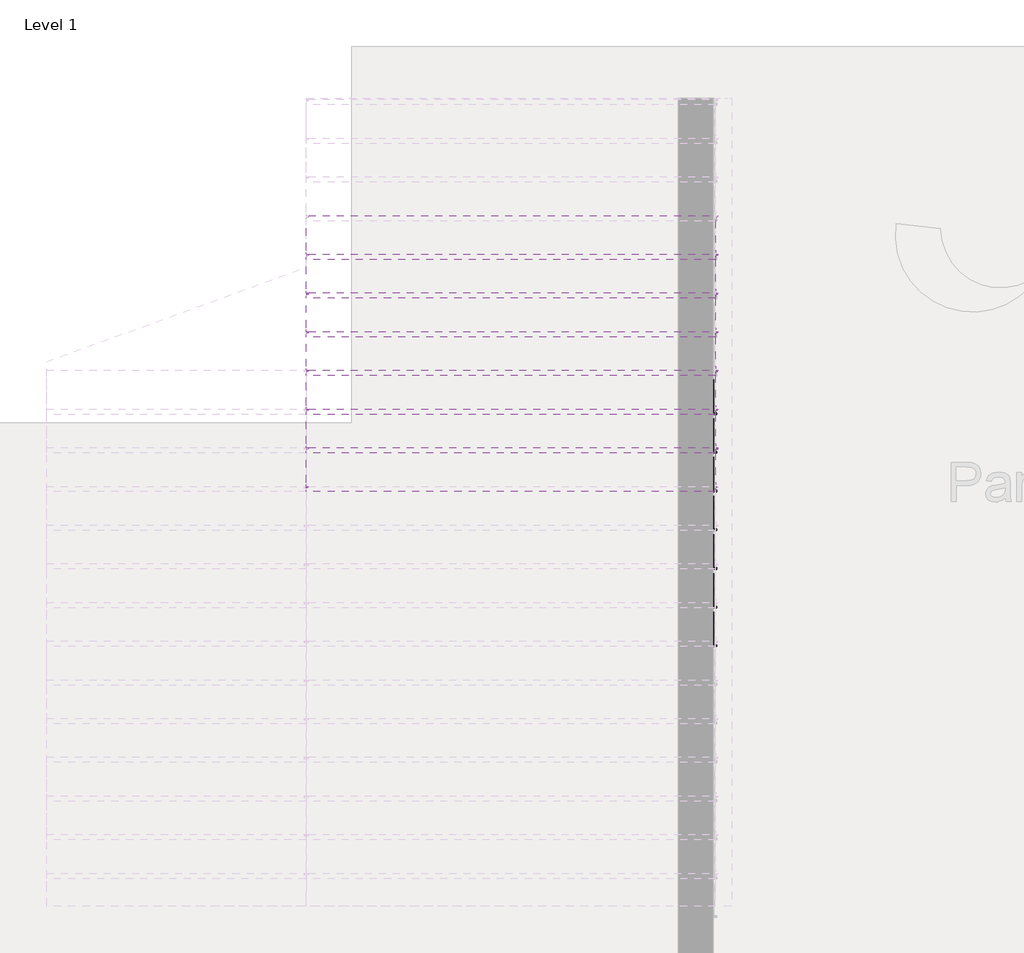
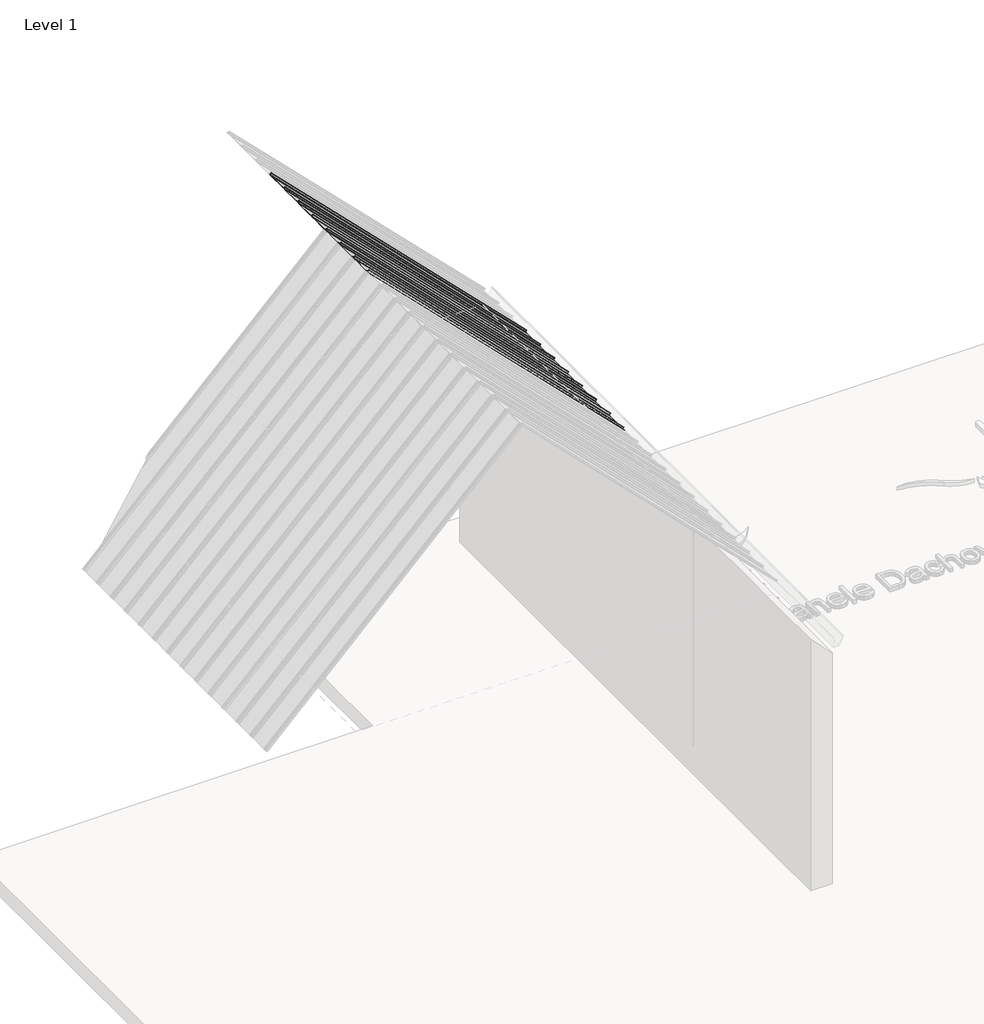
# One storey, part 8 of 24: 14 proxies.
"""IFC4 building model written with IfcOpenShell, lengths in millimetres."""

from ifc_helpers import new_model, si_unit, point, frame, frame_2d, origin, place, context, project, spatial, polyline, circle_curve, trimmed, segment, composite_curve, outline, extrude, transform, mapped, element, save
from components import aqua_slim_1cb284e8

model = new_model("IFC4")

# Units and contexts
model_context = context("Model", 3, world=origin())
ifc_project = project(units=[si_unit("LENGTHUNIT", "METRE", prefix="MILLI")], contexts=[model_context])

# Site, building, storey
site = spatial("IfcSite", under=ifc_project)
building = spatial("IfcBuilding", under=site)
storey = spatial("IfcBuildingStorey", under=building, Name="Level 1", Elevation=0.0)

# Proxies
placement = place(None, origin())
element("IfcBuildingElementProxy", 1, Name="AQUAPLAST - Panel Dachowy i Elewacyjny Aqua Slim : Aqua Slim", ObjectType="AQUAPLAST - Panel Dachowy i Elewacyjny Aqua Slim : Aqua Slim", at=placement, inside=storey, context=model_context, shape_type="SweptSolid", body=[
    extrude(outline(polyline([(0.0, 227.2000503), (4454.0, 227.2000503), (4454.0, 0.0), (0.0, 0.0), (0.0, 227.2000503)])), frame((-5286.5167864, 13207.4302375, 6945.4435021), z_axis=(0.7071067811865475, 0.0, 0.7071067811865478), x_axis=(0.7071067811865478, 0.0, -0.7071067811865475)), (0.0, 0.0, 1.0), 0.8),
    extrude(outline(composite_curve([segment(polyline([(1.6, -36.6), (0.8, -40.1), (0.0, -40.1), (0.8000601, -36.6), (0.8000601, -12.7000752)]), True, "CONTINUOUS"), segment(trimmed(circle_curve(frame_2d((1.2999699, -12.7000752)), 0.4999098), [point((0.8000601, -12.7000752))], [point((1.2999699, -12.2001654))], False, "CARTESIAN"), True, "CONTINUOUS"), segment(polyline([(1.2999699, -12.2001654), (23.7003195, -12.2001654)]), True, "CONTINUOUS"), segment(trimmed(circle_curve(frame_2d((23.7003195, -11.6998422)), 0.5003233), [point((23.7003195, -12.2001654))], [point((24.2006428, -11.6998422))], True, "CARTESIAN"), True, "CONTINUOUS"), segment(polyline([(24.2006428, -11.6998422), (24.2006428, -1.2033228)]), True, "CONTINUOUS"), segment(trimmed(circle_curve(frame_2d((23.6993591, -1.2033228)), 0.5012837), [point((24.2006428, -1.2033228))], [point((23.6993591, -0.7020391))], True, "CARTESIAN"), True, "CONTINUOUS"), segment(polyline([(23.6993591, -0.7020391), (9.7850119, -0.7020391)]), True, "CONTINUOUS"), segment(trimmed(circle_curve(frame_2d((9.7850119, -1.6460516)), 0.9440125), [point((9.7850119, -0.7020391))], [point((8.9478642, -1.2097679))], True, "CARTESIAN"), True, "CONTINUOUS"), segment(trimmed(circle_curve(frame_2d((5.4137845, -0.6808077)), 3.5734462), [point((8.9478642, -1.2097679))], [point((1.8403383, -0.6808077))], False, "CARTESIAN"), True, "CONTINUOUS"), segment(polyline([(1.8403383, -0.6808077), (2.6405793, -0.6808077)]), True, "CONTINUOUS"), segment(trimmed(circle_curve(frame_2d((5.3847864, -0.6808077)), 2.7442071), [point((2.6405793, -0.6808077))], [point((8.1289934, -0.6808077))], True, "CARTESIAN"), True, "CONTINUOUS"), segment(trimmed(circle_curve(frame_2d((8.8039224, -0.6749544)), 0.6749543), [point((8.1289934, -0.6808077))], [point((8.8039224, 0.0))], False, "CARTESIAN"), True, "CONTINUOUS"), segment(polyline([(8.8039224, 0.0), (24.5, 0.0)]), True, "CONTINUOUS"), segment(trimmed(circle_curve(frame_2d((24.5, -0.5)), 0.5), [point((24.5, 0.0))], [point((25.0, -0.5))], False, "CARTESIAN"), True, "CONTINUOUS"), segment(polyline([(25.0, -0.5), (25.0, -12.5)]), True, "CONTINUOUS"), segment(trimmed(circle_curve(frame_2d((24.5, -12.5)), 0.5), [point((25.0, -12.5))], [point((24.5, -13.0))], False, "CARTESIAN"), True, "CONTINUOUS"), segment(polyline([(24.5, -13.0), (2.1, -13.0)]), True, "CONTINUOUS"), segment(trimmed(circle_curve(frame_2d((2.1, -13.5)), 0.5), [point((2.1, -13.0))], [point((1.6, -13.5))], True, "CARTESIAN"), True, "CONTINUOUS"), segment(polyline([(1.6, -13.5), (1.6, -36.6)]), True, "CONTINUOUS")], self_intersect=False)), frame((-2137.063183, 13474.7302878, 3795.9898987), z_axis=(-0.7071067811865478, 0.0, 0.7071067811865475), x_axis=(0.7071067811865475, 0.0, 0.7071067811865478)), (0.0, 0.0, 1.0), 4454.0),
    extrude(outline(composite_curve([segment(polyline([(0.8, 0.0), (0.0, 0.0), (0.0, 30.3277327)]), True, "CONTINUOUS"), segment(trimmed(circle_curve(frame_2d((0.7400208, 30.3277327)), 0.7400208), [point((0.0, 30.3277327))], [point((0.6241817, 31.0586308))], False, "CARTESIAN"), True, "CONTINUOUS"), segment(polyline([(0.6241817, 31.0586308), (18.4803327, 33.8886302)]), True, "CONTINUOUS"), segment(trimmed(circle_curve(frame_2d((18.1818617, 35.771861)), 1.9067363), [point((18.4803327, 33.8886302))], [point((19.1352298, 37.4231431))], True, "CARTESIAN"), True, "CONTINUOUS"), segment(polyline([(19.1352298, 37.4231431), (11.8934079, 40.3349068)]), True, "CONTINUOUS"), segment(trimmed(circle_curve(frame_2d((11.2676679, 38.7786343)), 1.6773594), [point((11.8934079, 40.3349068))], [point((9.7513874, 39.4958707))], True, "CARTESIAN"), True, "CONTINUOUS"), segment(trimmed(circle_curve(frame_2d((5.5014361, 41.5061979)), 4.7014361), [point((9.7513874, 39.4958707))], [point((0.8, 41.5061979))], False, "CARTESIAN"), True, "CONTINUOUS"), segment(polyline([(0.8, 41.5061979), (0.8, 69.1999497), (0.0, 72.6999497), (0.8, 72.6999497), (1.6, 69.1999497), (1.6, 41.3470224)]), True, "CONTINUOUS"), segment(trimmed(circle_curve(frame_2d((5.4667311, 41.3470224)), 3.8667311), [point((1.6, 41.3470224))], [point((9.0024093, 39.7815866))], True, "CARTESIAN"), True, "CONTINUOUS"), segment(trimmed(circle_curve(frame_2d((11.2676679, 38.7786343)), 2.4773594), [point((9.0024093, 39.7815866))], [point((12.1941629, 41.0762236))], False, "CARTESIAN"), True, "CONTINUOUS"), segment(polyline([(12.1941629, 41.0762236), (19.5352299, 38.1159634)]), True, "CONTINUOUS"), segment(trimmed(circle_curve(frame_2d((18.1818617, 35.771861)), 2.7067363), [point((19.5352299, 38.1159634))], [point((18.7653554, 33.1287651))], False, "CARTESIAN"), True, "CONTINUOUS"), segment(polyline([(18.7653554, 33.1287651), (1.3501315, 30.0958084)]), True, "CONTINUOUS"), segment(trimmed(circle_curve(frame_2d((1.4640676, 29.441588)), 0.6640676), [point((1.3501315, 30.0958084))], [point((0.8, 29.441588))], True, "CARTESIAN"), True, "CONTINUOUS"), segment(polyline([(0.8, 29.441588), (0.8, 0.0)]), True, "CONTINUOUS")], self_intersect=False)), frame((-2137.063183, 13134.7302878, 3795.9898987), z_axis=(-0.7071067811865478, 0.0, 0.7071067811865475), x_axis=(0.7071067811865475, 0.0, 0.7071067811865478)), (0.0, 0.0, 1.0), 4454.0),
])
element("IfcBuildingElementProxy", 2, Name="AQUAPLAST - Panel Dachowy i Elewacyjny Aqua Slim : Aqua Slim", ObjectType="AQUAPLAST - Panel Dachowy i Elewacyjny Aqua Slim : Aqua Slim", at=placement, inside=storey, context=model_context, shape_type="SweptSolid", body=[
    extrude(outline(polyline([(0.0, 227.2000503), (4454.0, 227.2000503), (4454.0, 0.0), (0.0, 0.0), (0.0, 227.2000503)])), frame((-5286.5167864, 13505.4302375, 6945.4435021), z_axis=(0.7071067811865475, 0.0, 0.7071067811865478), x_axis=(0.7071067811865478, 0.0, -0.7071067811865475)), (0.0, 0.0, 1.0), 0.8),
    extrude(outline(composite_curve([segment(polyline([(1.6, -36.6), (0.8, -40.1), (0.0, -40.1), (0.8000601, -36.6), (0.8000601, -12.7000752)]), True, "CONTINUOUS"), segment(trimmed(circle_curve(frame_2d((1.2999699, -12.7000752)), 0.4999098), [point((0.8000601, -12.7000752))], [point((1.2999699, -12.2001654))], False, "CARTESIAN"), True, "CONTINUOUS"), segment(polyline([(1.2999699, -12.2001654), (23.7003195, -12.2001654)]), True, "CONTINUOUS"), segment(trimmed(circle_curve(frame_2d((23.7003195, -11.6998422)), 0.5003233), [point((23.7003195, -12.2001654))], [point((24.2006428, -11.6998422))], True, "CARTESIAN"), True, "CONTINUOUS"), segment(polyline([(24.2006428, -11.6998422), (24.2006428, -1.2033228)]), True, "CONTINUOUS"), segment(trimmed(circle_curve(frame_2d((23.6993591, -1.2033228)), 0.5012837), [point((24.2006428, -1.2033228))], [point((23.6993591, -0.7020391))], True, "CARTESIAN"), True, "CONTINUOUS"), segment(polyline([(23.6993591, -0.7020391), (9.7850119, -0.7020391)]), True, "CONTINUOUS"), segment(trimmed(circle_curve(frame_2d((9.7850119, -1.6460516)), 0.9440125), [point((9.7850119, -0.7020391))], [point((8.9478642, -1.2097679))], True, "CARTESIAN"), True, "CONTINUOUS"), segment(trimmed(circle_curve(frame_2d((5.4137845, -0.6808077)), 3.5734462), [point((8.9478642, -1.2097679))], [point((1.8403383, -0.6808077))], False, "CARTESIAN"), True, "CONTINUOUS"), segment(polyline([(1.8403383, -0.6808077), (2.6405793, -0.6808077)]), True, "CONTINUOUS"), segment(trimmed(circle_curve(frame_2d((5.3847864, -0.6808077)), 2.7442071), [point((2.6405793, -0.6808077))], [point((8.1289934, -0.6808077))], True, "CARTESIAN"), True, "CONTINUOUS"), segment(trimmed(circle_curve(frame_2d((8.8039224, -0.6749544)), 0.6749543), [point((8.1289934, -0.6808077))], [point((8.8039224, 0.0))], False, "CARTESIAN"), True, "CONTINUOUS"), segment(polyline([(8.8039224, 0.0), (24.5, 0.0)]), True, "CONTINUOUS"), segment(trimmed(circle_curve(frame_2d((24.5, -0.5)), 0.5), [point((24.5, 0.0))], [point((25.0, -0.5))], False, "CARTESIAN"), True, "CONTINUOUS"), segment(polyline([(25.0, -0.5), (25.0, -12.5)]), True, "CONTINUOUS"), segment(trimmed(circle_curve(frame_2d((24.5, -12.5)), 0.5), [point((25.0, -12.5))], [point((24.5, -13.0))], False, "CARTESIAN"), True, "CONTINUOUS"), segment(polyline([(24.5, -13.0), (2.1, -13.0)]), True, "CONTINUOUS"), segment(trimmed(circle_curve(frame_2d((2.1, -13.5)), 0.5), [point((2.1, -13.0))], [point((1.6, -13.5))], True, "CARTESIAN"), True, "CONTINUOUS"), segment(polyline([(1.6, -13.5), (1.6, -36.6)]), True, "CONTINUOUS")], self_intersect=False)), frame((-2137.063183, 13772.7302878, 3795.9898987), z_axis=(-0.7071067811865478, 0.0, 0.7071067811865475), x_axis=(0.7071067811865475, 0.0, 0.7071067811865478)), (0.0, 0.0, 1.0), 4454.0),
    extrude(outline(composite_curve([segment(polyline([(0.8, 0.0), (0.0, 0.0), (0.0, 30.3277327)]), True, "CONTINUOUS"), segment(trimmed(circle_curve(frame_2d((0.7400208, 30.3277327)), 0.7400208), [point((0.0, 30.3277327))], [point((0.6241817, 31.0586308))], False, "CARTESIAN"), True, "CONTINUOUS"), segment(polyline([(0.6241817, 31.0586308), (18.4803327, 33.8886302)]), True, "CONTINUOUS"), segment(trimmed(circle_curve(frame_2d((18.1818617, 35.771861)), 1.9067363), [point((18.4803327, 33.8886302))], [point((19.1352298, 37.4231431))], True, "CARTESIAN"), True, "CONTINUOUS"), segment(polyline([(19.1352298, 37.4231431), (11.8934079, 40.3349068)]), True, "CONTINUOUS"), segment(trimmed(circle_curve(frame_2d((11.2676679, 38.7786343)), 1.6773594), [point((11.8934079, 40.3349068))], [point((9.7513874, 39.4958707))], True, "CARTESIAN"), True, "CONTINUOUS"), segment(trimmed(circle_curve(frame_2d((5.5014361, 41.5061979)), 4.7014361), [point((9.7513874, 39.4958707))], [point((0.8, 41.5061979))], False, "CARTESIAN"), True, "CONTINUOUS"), segment(polyline([(0.8, 41.5061979), (0.8, 69.1999497), (0.0, 72.6999497), (0.8, 72.6999497), (1.6, 69.1999497), (1.6, 41.3470224)]), True, "CONTINUOUS"), segment(trimmed(circle_curve(frame_2d((5.4667311, 41.3470224)), 3.8667311), [point((1.6, 41.3470224))], [point((9.0024093, 39.7815866))], True, "CARTESIAN"), True, "CONTINUOUS"), segment(trimmed(circle_curve(frame_2d((11.2676679, 38.7786343)), 2.4773594), [point((9.0024093, 39.7815866))], [point((12.1941629, 41.0762236))], False, "CARTESIAN"), True, "CONTINUOUS"), segment(polyline([(12.1941629, 41.0762236), (19.5352299, 38.1159634)]), True, "CONTINUOUS"), segment(trimmed(circle_curve(frame_2d((18.1818617, 35.771861)), 2.7067363), [point((19.5352299, 38.1159634))], [point((18.7653554, 33.1287651))], False, "CARTESIAN"), True, "CONTINUOUS"), segment(polyline([(18.7653554, 33.1287651), (1.3501315, 30.0958084)]), True, "CONTINUOUS"), segment(trimmed(circle_curve(frame_2d((1.4640676, 29.441588)), 0.6640676), [point((1.3501315, 30.0958084))], [point((0.8, 29.441588))], True, "CARTESIAN"), True, "CONTINUOUS"), segment(polyline([(0.8, 29.441588), (0.8, 0.0)]), True, "CONTINUOUS")], self_intersect=False)), frame((-2137.063183, 13432.7302878, 3795.9898987), z_axis=(-0.7071067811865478, 0.0, 0.7071067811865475), x_axis=(0.7071067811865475, 0.0, 0.7071067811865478)), (0.0, 0.0, 1.0), 4454.0),
])
element("IfcBuildingElementProxy", 3, Name="AQUAPLAST - Panel Dachowy i Elewacyjny Aqua Slim : Aqua Slim", ObjectType="AQUAPLAST - Panel Dachowy i Elewacyjny Aqua Slim : Aqua Slim", at=placement, inside=storey, context=model_context, shape_type="SweptSolid", body=[
    extrude(outline(polyline([(0.0, 227.2000503), (4454.0, 227.2000503), (4454.0, 0.0), (0.0, 0.0), (0.0, 227.2000503)])), frame((-5286.5167864, 13803.4302375, 6945.4435021), z_axis=(0.7071067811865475, 0.0, 0.7071067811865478), x_axis=(0.7071067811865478, 0.0, -0.7071067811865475)), (0.0, 0.0, 1.0), 0.8),
    extrude(outline(composite_curve([segment(polyline([(1.6, -36.6), (0.8, -40.1), (0.0, -40.1), (0.8000601, -36.6), (0.8000601, -12.7000752)]), True, "CONTINUOUS"), segment(trimmed(circle_curve(frame_2d((1.2999699, -12.7000752)), 0.4999098), [point((0.8000601, -12.7000752))], [point((1.2999699, -12.2001654))], False, "CARTESIAN"), True, "CONTINUOUS"), segment(polyline([(1.2999699, -12.2001654), (23.7003195, -12.2001654)]), True, "CONTINUOUS"), segment(trimmed(circle_curve(frame_2d((23.7003195, -11.6998422)), 0.5003233), [point((23.7003195, -12.2001654))], [point((24.2006428, -11.6998422))], True, "CARTESIAN"), True, "CONTINUOUS"), segment(polyline([(24.2006428, -11.6998422), (24.2006428, -1.2033228)]), True, "CONTINUOUS"), segment(trimmed(circle_curve(frame_2d((23.6993591, -1.2033228)), 0.5012837), [point((24.2006428, -1.2033228))], [point((23.6993591, -0.7020391))], True, "CARTESIAN"), True, "CONTINUOUS"), segment(polyline([(23.6993591, -0.7020391), (9.7850119, -0.7020391)]), True, "CONTINUOUS"), segment(trimmed(circle_curve(frame_2d((9.7850119, -1.6460516)), 0.9440125), [point((9.7850119, -0.7020391))], [point((8.9478642, -1.2097679))], True, "CARTESIAN"), True, "CONTINUOUS"), segment(trimmed(circle_curve(frame_2d((5.4137845, -0.6808077)), 3.5734462), [point((8.9478642, -1.2097679))], [point((1.8403383, -0.6808077))], False, "CARTESIAN"), True, "CONTINUOUS"), segment(polyline([(1.8403383, -0.6808077), (2.6405793, -0.6808077)]), True, "CONTINUOUS"), segment(trimmed(circle_curve(frame_2d((5.3847864, -0.6808077)), 2.7442071), [point((2.6405793, -0.6808077))], [point((8.1289934, -0.6808077))], True, "CARTESIAN"), True, "CONTINUOUS"), segment(trimmed(circle_curve(frame_2d((8.8039224, -0.6749544)), 0.6749543), [point((8.1289934, -0.6808077))], [point((8.8039224, 0.0))], False, "CARTESIAN"), True, "CONTINUOUS"), segment(polyline([(8.8039224, 0.0), (24.5, 0.0)]), True, "CONTINUOUS"), segment(trimmed(circle_curve(frame_2d((24.5, -0.5)), 0.5), [point((24.5, 0.0))], [point((25.0, -0.5))], False, "CARTESIAN"), True, "CONTINUOUS"), segment(polyline([(25.0, -0.5), (25.0, -12.5)]), True, "CONTINUOUS"), segment(trimmed(circle_curve(frame_2d((24.5, -12.5)), 0.5), [point((25.0, -12.5))], [point((24.5, -13.0))], False, "CARTESIAN"), True, "CONTINUOUS"), segment(polyline([(24.5, -13.0), (2.1, -13.0)]), True, "CONTINUOUS"), segment(trimmed(circle_curve(frame_2d((2.1, -13.5)), 0.5), [point((2.1, -13.0))], [point((1.6, -13.5))], True, "CARTESIAN"), True, "CONTINUOUS"), segment(polyline([(1.6, -13.5), (1.6, -36.6)]), True, "CONTINUOUS")], self_intersect=False)), frame((-2137.063183, 14070.7302878, 3795.9898987), z_axis=(-0.7071067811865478, 0.0, 0.7071067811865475), x_axis=(0.7071067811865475, 0.0, 0.7071067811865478)), (0.0, 0.0, 1.0), 4454.0),
    extrude(outline(composite_curve([segment(polyline([(0.8, 0.0), (0.0, 0.0), (0.0, 30.3277327)]), True, "CONTINUOUS"), segment(trimmed(circle_curve(frame_2d((0.7400208, 30.3277327)), 0.7400208), [point((0.0, 30.3277327))], [point((0.6241817, 31.0586308))], False, "CARTESIAN"), True, "CONTINUOUS"), segment(polyline([(0.6241817, 31.0586308), (18.4803327, 33.8886302)]), True, "CONTINUOUS"), segment(trimmed(circle_curve(frame_2d((18.1818617, 35.771861)), 1.9067363), [point((18.4803327, 33.8886302))], [point((19.1352298, 37.4231431))], True, "CARTESIAN"), True, "CONTINUOUS"), segment(polyline([(19.1352298, 37.4231431), (11.8934079, 40.3349068)]), True, "CONTINUOUS"), segment(trimmed(circle_curve(frame_2d((11.2676679, 38.7786343)), 1.6773594), [point((11.8934079, 40.3349068))], [point((9.7513874, 39.4958707))], True, "CARTESIAN"), True, "CONTINUOUS"), segment(trimmed(circle_curve(frame_2d((5.5014361, 41.5061979)), 4.7014361), [point((9.7513874, 39.4958707))], [point((0.8, 41.5061979))], False, "CARTESIAN"), True, "CONTINUOUS"), segment(polyline([(0.8, 41.5061979), (0.8, 69.1999497), (0.0, 72.6999497), (0.8, 72.6999497), (1.6, 69.1999497), (1.6, 41.3470224)]), True, "CONTINUOUS"), segment(trimmed(circle_curve(frame_2d((5.4667311, 41.3470224)), 3.8667311), [point((1.6, 41.3470224))], [point((9.0024093, 39.7815866))], True, "CARTESIAN"), True, "CONTINUOUS"), segment(trimmed(circle_curve(frame_2d((11.2676679, 38.7786343)), 2.4773594), [point((9.0024093, 39.7815866))], [point((12.1941629, 41.0762236))], False, "CARTESIAN"), True, "CONTINUOUS"), segment(polyline([(12.1941629, 41.0762236), (19.5352299, 38.1159634)]), True, "CONTINUOUS"), segment(trimmed(circle_curve(frame_2d((18.1818617, 35.771861)), 2.7067363), [point((19.5352299, 38.1159634))], [point((18.7653554, 33.1287651))], False, "CARTESIAN"), True, "CONTINUOUS"), segment(polyline([(18.7653554, 33.1287651), (1.3501315, 30.0958084)]), True, "CONTINUOUS"), segment(trimmed(circle_curve(frame_2d((1.4640676, 29.441588)), 0.6640676), [point((1.3501315, 30.0958084))], [point((0.8, 29.441588))], True, "CARTESIAN"), True, "CONTINUOUS"), segment(polyline([(0.8, 29.441588), (0.8, 0.0)]), True, "CONTINUOUS")], self_intersect=False)), frame((-2137.063183, 13730.7302878, 3795.9898987), z_axis=(-0.7071067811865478, 0.0, 0.7071067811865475), x_axis=(0.7071067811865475, 0.0, 0.7071067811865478)), (0.0, 0.0, 1.0), 4454.0),
])
element("IfcBuildingElementProxy", 4, Name="AQUAPLAST - Panel Dachowy i Elewacyjny Aqua Slim : Aqua Slim", ObjectType="AQUAPLAST - Panel Dachowy i Elewacyjny Aqua Slim : Aqua Slim", at=placement, inside=storey, context=model_context, shape_type="SweptSolid", body=[
    extrude(outline(polyline([(0.0, 227.2000503), (4454.0, 227.2000503), (4454.0, 0.0), (0.0, 0.0), (0.0, 227.2000503)])), frame((-5286.5167864, 14101.4302375, 6945.4435021), z_axis=(0.7071067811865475, 0.0, 0.7071067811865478), x_axis=(0.7071067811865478, 0.0, -0.7071067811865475)), (0.0, 0.0, 1.0), 0.8),
    extrude(outline(composite_curve([segment(polyline([(1.6, -36.6), (0.8, -40.1), (0.0, -40.1), (0.8000601, -36.6), (0.8000601, -12.7000752)]), True, "CONTINUOUS"), segment(trimmed(circle_curve(frame_2d((1.2999699, -12.7000752)), 0.4999098), [point((0.8000601, -12.7000752))], [point((1.2999699, -12.2001654))], False, "CARTESIAN"), True, "CONTINUOUS"), segment(polyline([(1.2999699, -12.2001654), (23.7003195, -12.2001654)]), True, "CONTINUOUS"), segment(trimmed(circle_curve(frame_2d((23.7003195, -11.6998422)), 0.5003233), [point((23.7003195, -12.2001654))], [point((24.2006428, -11.6998422))], True, "CARTESIAN"), True, "CONTINUOUS"), segment(polyline([(24.2006428, -11.6998422), (24.2006428, -1.2033228)]), True, "CONTINUOUS"), segment(trimmed(circle_curve(frame_2d((23.6993591, -1.2033228)), 0.5012837), [point((24.2006428, -1.2033228))], [point((23.6993591, -0.7020391))], True, "CARTESIAN"), True, "CONTINUOUS"), segment(polyline([(23.6993591, -0.7020391), (9.7850119, -0.7020391)]), True, "CONTINUOUS"), segment(trimmed(circle_curve(frame_2d((9.7850119, -1.6460516)), 0.9440125), [point((9.7850119, -0.7020391))], [point((8.9478642, -1.2097679))], True, "CARTESIAN"), True, "CONTINUOUS"), segment(trimmed(circle_curve(frame_2d((5.4137845, -0.6808077)), 3.5734462), [point((8.9478642, -1.2097679))], [point((1.8403383, -0.6808077))], False, "CARTESIAN"), True, "CONTINUOUS"), segment(polyline([(1.8403383, -0.6808077), (2.6405793, -0.6808077)]), True, "CONTINUOUS"), segment(trimmed(circle_curve(frame_2d((5.3847864, -0.6808077)), 2.7442071), [point((2.6405793, -0.6808077))], [point((8.1289934, -0.6808077))], True, "CARTESIAN"), True, "CONTINUOUS"), segment(trimmed(circle_curve(frame_2d((8.8039224, -0.6749544)), 0.6749543), [point((8.1289934, -0.6808077))], [point((8.8039224, 0.0))], False, "CARTESIAN"), True, "CONTINUOUS"), segment(polyline([(8.8039224, 0.0), (24.5, 0.0)]), True, "CONTINUOUS"), segment(trimmed(circle_curve(frame_2d((24.5, -0.5)), 0.5), [point((24.5, 0.0))], [point((25.0, -0.5))], False, "CARTESIAN"), True, "CONTINUOUS"), segment(polyline([(25.0, -0.5), (25.0, -12.5)]), True, "CONTINUOUS"), segment(trimmed(circle_curve(frame_2d((24.5, -12.5)), 0.5), [point((25.0, -12.5))], [point((24.5, -13.0))], False, "CARTESIAN"), True, "CONTINUOUS"), segment(polyline([(24.5, -13.0), (2.1, -13.0)]), True, "CONTINUOUS"), segment(trimmed(circle_curve(frame_2d((2.1, -13.5)), 0.5), [point((2.1, -13.0))], [point((1.6, -13.5))], True, "CARTESIAN"), True, "CONTINUOUS"), segment(polyline([(1.6, -13.5), (1.6, -36.6)]), True, "CONTINUOUS")], self_intersect=False)), frame((-2137.063183, 14368.7302878, 3795.9898987), z_axis=(-0.7071067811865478, 0.0, 0.7071067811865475), x_axis=(0.7071067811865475, 0.0, 0.7071067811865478)), (0.0, 0.0, 1.0), 4454.0),
    extrude(outline(composite_curve([segment(polyline([(0.8, 0.0), (0.0, 0.0), (0.0, 30.3277327)]), True, "CONTINUOUS"), segment(trimmed(circle_curve(frame_2d((0.7400208, 30.3277327)), 0.7400208), [point((0.0, 30.3277327))], [point((0.6241817, 31.0586308))], False, "CARTESIAN"), True, "CONTINUOUS"), segment(polyline([(0.6241817, 31.0586308), (18.4803327, 33.8886302)]), True, "CONTINUOUS"), segment(trimmed(circle_curve(frame_2d((18.1818617, 35.771861)), 1.9067363), [point((18.4803327, 33.8886302))], [point((19.1352298, 37.4231431))], True, "CARTESIAN"), True, "CONTINUOUS"), segment(polyline([(19.1352298, 37.4231431), (11.8934079, 40.3349068)]), True, "CONTINUOUS"), segment(trimmed(circle_curve(frame_2d((11.2676679, 38.7786343)), 1.6773594), [point((11.8934079, 40.3349068))], [point((9.7513874, 39.4958707))], True, "CARTESIAN"), True, "CONTINUOUS"), segment(trimmed(circle_curve(frame_2d((5.5014361, 41.5061979)), 4.7014361), [point((9.7513874, 39.4958707))], [point((0.8, 41.5061979))], False, "CARTESIAN"), True, "CONTINUOUS"), segment(polyline([(0.8, 41.5061979), (0.8, 69.1999497), (0.0, 72.6999497), (0.8, 72.6999497), (1.6, 69.1999497), (1.6, 41.3470224)]), True, "CONTINUOUS"), segment(trimmed(circle_curve(frame_2d((5.4667311, 41.3470224)), 3.8667311), [point((1.6, 41.3470224))], [point((9.0024093, 39.7815866))], True, "CARTESIAN"), True, "CONTINUOUS"), segment(trimmed(circle_curve(frame_2d((11.2676679, 38.7786343)), 2.4773594), [point((9.0024093, 39.7815866))], [point((12.1941629, 41.0762236))], False, "CARTESIAN"), True, "CONTINUOUS"), segment(polyline([(12.1941629, 41.0762236), (19.5352299, 38.1159634)]), True, "CONTINUOUS"), segment(trimmed(circle_curve(frame_2d((18.1818617, 35.771861)), 2.7067363), [point((19.5352299, 38.1159634))], [point((18.7653554, 33.1287651))], False, "CARTESIAN"), True, "CONTINUOUS"), segment(polyline([(18.7653554, 33.1287651), (1.3501315, 30.0958084)]), True, "CONTINUOUS"), segment(trimmed(circle_curve(frame_2d((1.4640676, 29.441588)), 0.6640676), [point((1.3501315, 30.0958084))], [point((0.8, 29.441588))], True, "CARTESIAN"), True, "CONTINUOUS"), segment(polyline([(0.8, 29.441588), (0.8, 0.0)]), True, "CONTINUOUS")], self_intersect=False)), frame((-2137.063183, 14028.7302878, 3795.9898987), z_axis=(-0.7071067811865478, 0.0, 0.7071067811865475), x_axis=(0.7071067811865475, 0.0, 0.7071067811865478)), (0.0, 0.0, 1.0), 4454.0),
])
element("IfcBuildingElementProxy", 5, Name="AQUAPLAST - Panel Dachowy i Elewacyjny Aqua Slim : Aqua Slim", ObjectType="AQUAPLAST - Panel Dachowy i Elewacyjny Aqua Slim : Aqua Slim", at=placement, inside=storey, context=model_context, shape_type="SweptSolid", body=[
    extrude(outline(polyline([(0.0, 227.2000503), (4454.0, 227.2000503), (4454.0, 0.0), (0.0, 0.0), (0.0, 227.2000503)])), frame((-5286.5167864, 14399.4302375, 6945.4435021), z_axis=(0.7071067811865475, 0.0, 0.7071067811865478), x_axis=(0.7071067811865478, 0.0, -0.7071067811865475)), (0.0, 0.0, 1.0), 0.8),
    extrude(outline(composite_curve([segment(polyline([(1.6, -36.6), (0.8, -40.1), (0.0, -40.1), (0.8000601, -36.6), (0.8000601, -12.7000752)]), True, "CONTINUOUS"), segment(trimmed(circle_curve(frame_2d((1.2999699, -12.7000752)), 0.4999098), [point((0.8000601, -12.7000752))], [point((1.2999699, -12.2001654))], False, "CARTESIAN"), True, "CONTINUOUS"), segment(polyline([(1.2999699, -12.2001654), (23.7003195, -12.2001654)]), True, "CONTINUOUS"), segment(trimmed(circle_curve(frame_2d((23.7003195, -11.6998422)), 0.5003233), [point((23.7003195, -12.2001654))], [point((24.2006428, -11.6998422))], True, "CARTESIAN"), True, "CONTINUOUS"), segment(polyline([(24.2006428, -11.6998422), (24.2006428, -1.2033228)]), True, "CONTINUOUS"), segment(trimmed(circle_curve(frame_2d((23.6993591, -1.2033228)), 0.5012837), [point((24.2006428, -1.2033228))], [point((23.6993591, -0.7020391))], True, "CARTESIAN"), True, "CONTINUOUS"), segment(polyline([(23.6993591, -0.7020391), (9.7850119, -0.7020391)]), True, "CONTINUOUS"), segment(trimmed(circle_curve(frame_2d((9.7850119, -1.6460516)), 0.9440125), [point((9.7850119, -0.7020391))], [point((8.9478642, -1.2097679))], True, "CARTESIAN"), True, "CONTINUOUS"), segment(trimmed(circle_curve(frame_2d((5.4137845, -0.6808077)), 3.5734462), [point((8.9478642, -1.2097679))], [point((1.8403383, -0.6808077))], False, "CARTESIAN"), True, "CONTINUOUS"), segment(polyline([(1.8403383, -0.6808077), (2.6405793, -0.6808077)]), True, "CONTINUOUS"), segment(trimmed(circle_curve(frame_2d((5.3847864, -0.6808077)), 2.7442071), [point((2.6405793, -0.6808077))], [point((8.1289934, -0.6808077))], True, "CARTESIAN"), True, "CONTINUOUS"), segment(trimmed(circle_curve(frame_2d((8.8039224, -0.6749544)), 0.6749543), [point((8.1289934, -0.6808077))], [point((8.8039224, 0.0))], False, "CARTESIAN"), True, "CONTINUOUS"), segment(polyline([(8.8039224, 0.0), (24.5, 0.0)]), True, "CONTINUOUS"), segment(trimmed(circle_curve(frame_2d((24.5, -0.5)), 0.5), [point((24.5, 0.0))], [point((25.0, -0.5))], False, "CARTESIAN"), True, "CONTINUOUS"), segment(polyline([(25.0, -0.5), (25.0, -12.5)]), True, "CONTINUOUS"), segment(trimmed(circle_curve(frame_2d((24.5, -12.5)), 0.5), [point((25.0, -12.5))], [point((24.5, -13.0))], False, "CARTESIAN"), True, "CONTINUOUS"), segment(polyline([(24.5, -13.0), (2.1, -13.0)]), True, "CONTINUOUS"), segment(trimmed(circle_curve(frame_2d((2.1, -13.5)), 0.5), [point((2.1, -13.0))], [point((1.6, -13.5))], True, "CARTESIAN"), True, "CONTINUOUS"), segment(polyline([(1.6, -13.5), (1.6, -36.6)]), True, "CONTINUOUS")], self_intersect=False)), frame((-2137.063183, 14666.7302878, 3795.9898987), z_axis=(-0.7071067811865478, 0.0, 0.7071067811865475), x_axis=(0.7071067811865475, 0.0, 0.7071067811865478)), (0.0, 0.0, 1.0), 4454.0),
    extrude(outline(composite_curve([segment(polyline([(0.8, 0.0), (0.0, 0.0), (0.0, 30.3277327)]), True, "CONTINUOUS"), segment(trimmed(circle_curve(frame_2d((0.7400208, 30.3277327)), 0.7400208), [point((0.0, 30.3277327))], [point((0.6241817, 31.0586308))], False, "CARTESIAN"), True, "CONTINUOUS"), segment(polyline([(0.6241817, 31.0586308), (18.4803327, 33.8886302)]), True, "CONTINUOUS"), segment(trimmed(circle_curve(frame_2d((18.1818617, 35.771861)), 1.9067363), [point((18.4803327, 33.8886302))], [point((19.1352298, 37.4231431))], True, "CARTESIAN"), True, "CONTINUOUS"), segment(polyline([(19.1352298, 37.4231431), (11.8934079, 40.3349068)]), True, "CONTINUOUS"), segment(trimmed(circle_curve(frame_2d((11.2676679, 38.7786343)), 1.6773594), [point((11.8934079, 40.3349068))], [point((9.7513874, 39.4958707))], True, "CARTESIAN"), True, "CONTINUOUS"), segment(trimmed(circle_curve(frame_2d((5.5014361, 41.5061979)), 4.7014361), [point((9.7513874, 39.4958707))], [point((0.8, 41.5061979))], False, "CARTESIAN"), True, "CONTINUOUS"), segment(polyline([(0.8, 41.5061979), (0.8, 69.1999497), (0.0, 72.6999497), (0.8, 72.6999497), (1.6, 69.1999497), (1.6, 41.3470224)]), True, "CONTINUOUS"), segment(trimmed(circle_curve(frame_2d((5.4667311, 41.3470224)), 3.8667311), [point((1.6, 41.3470224))], [point((9.0024093, 39.7815866))], True, "CARTESIAN"), True, "CONTINUOUS"), segment(trimmed(circle_curve(frame_2d((11.2676679, 38.7786343)), 2.4773594), [point((9.0024093, 39.7815866))], [point((12.1941629, 41.0762236))], False, "CARTESIAN"), True, "CONTINUOUS"), segment(polyline([(12.1941629, 41.0762236), (19.5352299, 38.1159634)]), True, "CONTINUOUS"), segment(trimmed(circle_curve(frame_2d((18.1818617, 35.771861)), 2.7067363), [point((19.5352299, 38.1159634))], [point((18.7653554, 33.1287651))], False, "CARTESIAN"), True, "CONTINUOUS"), segment(polyline([(18.7653554, 33.1287651), (1.3501315, 30.0958084)]), True, "CONTINUOUS"), segment(trimmed(circle_curve(frame_2d((1.4640676, 29.441588)), 0.6640676), [point((1.3501315, 30.0958084))], [point((0.8, 29.441588))], True, "CARTESIAN"), True, "CONTINUOUS"), segment(polyline([(0.8, 29.441588), (0.8, 0.0)]), True, "CONTINUOUS")], self_intersect=False)), frame((-2137.063183, 14326.7302878, 3795.9898987), z_axis=(-0.7071067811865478, 0.0, 0.7071067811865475), x_axis=(0.7071067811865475, 0.0, 0.7071067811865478)), (0.0, 0.0, 1.0), 4454.0),
])
element("IfcBuildingElementProxy", 6, Name="AQUAPLAST - Panel Dachowy i Elewacyjny Aqua Slim : Aqua Slim", ObjectType="AQUAPLAST - Panel Dachowy i Elewacyjny Aqua Slim : Aqua Slim", at=placement, inside=storey, context=model_context, shape_type="SweptSolid", body=[
    extrude(outline(polyline([(0.0, 227.2000503), (4454.0, 227.2000503), (4454.0, 0.0), (0.0, 0.0), (0.0, 227.2000503)])), frame((-5286.5167864, 14697.4302375, 6945.4435021), z_axis=(0.7071067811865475, 0.0, 0.7071067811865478), x_axis=(0.7071067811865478, 0.0, -0.7071067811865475)), (0.0, 0.0, 1.0), 0.8),
    extrude(outline(composite_curve([segment(polyline([(1.6, -36.6), (0.8, -40.1), (0.0, -40.1), (0.8000601, -36.6), (0.8000601, -12.7000752)]), True, "CONTINUOUS"), segment(trimmed(circle_curve(frame_2d((1.2999699, -12.7000752)), 0.4999098), [point((0.8000601, -12.7000752))], [point((1.2999699, -12.2001654))], False, "CARTESIAN"), True, "CONTINUOUS"), segment(polyline([(1.2999699, -12.2001654), (23.7003195, -12.2001654)]), True, "CONTINUOUS"), segment(trimmed(circle_curve(frame_2d((23.7003195, -11.6998422)), 0.5003233), [point((23.7003195, -12.2001654))], [point((24.2006428, -11.6998422))], True, "CARTESIAN"), True, "CONTINUOUS"), segment(polyline([(24.2006428, -11.6998422), (24.2006428, -1.2033228)]), True, "CONTINUOUS"), segment(trimmed(circle_curve(frame_2d((23.6993591, -1.2033228)), 0.5012837), [point((24.2006428, -1.2033228))], [point((23.6993591, -0.7020391))], True, "CARTESIAN"), True, "CONTINUOUS"), segment(polyline([(23.6993591, -0.7020391), (9.7850119, -0.7020391)]), True, "CONTINUOUS"), segment(trimmed(circle_curve(frame_2d((9.7850119, -1.6460516)), 0.9440125), [point((9.7850119, -0.7020391))], [point((8.9478642, -1.2097679))], True, "CARTESIAN"), True, "CONTINUOUS"), segment(trimmed(circle_curve(frame_2d((5.4137845, -0.6808077)), 3.5734462), [point((8.9478642, -1.2097679))], [point((1.8403383, -0.6808077))], False, "CARTESIAN"), True, "CONTINUOUS"), segment(polyline([(1.8403383, -0.6808077), (2.6405793, -0.6808077)]), True, "CONTINUOUS"), segment(trimmed(circle_curve(frame_2d((5.3847864, -0.6808077)), 2.7442071), [point((2.6405793, -0.6808077))], [point((8.1289934, -0.6808077))], True, "CARTESIAN"), True, "CONTINUOUS"), segment(trimmed(circle_curve(frame_2d((8.8039224, -0.6749544)), 0.6749543), [point((8.1289934, -0.6808077))], [point((8.8039224, 0.0))], False, "CARTESIAN"), True, "CONTINUOUS"), segment(polyline([(8.8039224, 0.0), (24.5, 0.0)]), True, "CONTINUOUS"), segment(trimmed(circle_curve(frame_2d((24.5, -0.5)), 0.5), [point((24.5, 0.0))], [point((25.0, -0.5))], False, "CARTESIAN"), True, "CONTINUOUS"), segment(polyline([(25.0, -0.5), (25.0, -12.5)]), True, "CONTINUOUS"), segment(trimmed(circle_curve(frame_2d((24.5, -12.5)), 0.5), [point((25.0, -12.5))], [point((24.5, -13.0))], False, "CARTESIAN"), True, "CONTINUOUS"), segment(polyline([(24.5, -13.0), (2.1, -13.0)]), True, "CONTINUOUS"), segment(trimmed(circle_curve(frame_2d((2.1, -13.5)), 0.5), [point((2.1, -13.0))], [point((1.6, -13.5))], True, "CARTESIAN"), True, "CONTINUOUS"), segment(polyline([(1.6, -13.5), (1.6, -36.6)]), True, "CONTINUOUS")], self_intersect=False)), frame((-2137.063183, 14964.7302878, 3795.9898987), z_axis=(-0.7071067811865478, 0.0, 0.7071067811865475), x_axis=(0.7071067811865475, 0.0, 0.7071067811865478)), (0.0, 0.0, 1.0), 4454.0),
    extrude(outline(composite_curve([segment(polyline([(0.8, 0.0), (0.0, 0.0), (0.0, 30.3277327)]), True, "CONTINUOUS"), segment(trimmed(circle_curve(frame_2d((0.7400208, 30.3277327)), 0.7400208), [point((0.0, 30.3277327))], [point((0.6241817, 31.0586308))], False, "CARTESIAN"), True, "CONTINUOUS"), segment(polyline([(0.6241817, 31.0586308), (18.4803327, 33.8886302)]), True, "CONTINUOUS"), segment(trimmed(circle_curve(frame_2d((18.1818617, 35.771861)), 1.9067363), [point((18.4803327, 33.8886302))], [point((19.1352298, 37.4231431))], True, "CARTESIAN"), True, "CONTINUOUS"), segment(polyline([(19.1352298, 37.4231431), (11.8934079, 40.3349068)]), True, "CONTINUOUS"), segment(trimmed(circle_curve(frame_2d((11.2676679, 38.7786343)), 1.6773594), [point((11.8934079, 40.3349068))], [point((9.7513874, 39.4958707))], True, "CARTESIAN"), True, "CONTINUOUS"), segment(trimmed(circle_curve(frame_2d((5.5014361, 41.5061979)), 4.7014361), [point((9.7513874, 39.4958707))], [point((0.8, 41.5061979))], False, "CARTESIAN"), True, "CONTINUOUS"), segment(polyline([(0.8, 41.5061979), (0.8, 69.1999497), (0.0, 72.6999497), (0.8, 72.6999497), (1.6, 69.1999497), (1.6, 41.3470224)]), True, "CONTINUOUS"), segment(trimmed(circle_curve(frame_2d((5.4667311, 41.3470224)), 3.8667311), [point((1.6, 41.3470224))], [point((9.0024093, 39.7815866))], True, "CARTESIAN"), True, "CONTINUOUS"), segment(trimmed(circle_curve(frame_2d((11.2676679, 38.7786343)), 2.4773594), [point((9.0024093, 39.7815866))], [point((12.1941629, 41.0762236))], False, "CARTESIAN"), True, "CONTINUOUS"), segment(polyline([(12.1941629, 41.0762236), (19.5352299, 38.1159634)]), True, "CONTINUOUS"), segment(trimmed(circle_curve(frame_2d((18.1818617, 35.771861)), 2.7067363), [point((19.5352299, 38.1159634))], [point((18.7653554, 33.1287651))], False, "CARTESIAN"), True, "CONTINUOUS"), segment(polyline([(18.7653554, 33.1287651), (1.3501315, 30.0958084)]), True, "CONTINUOUS"), segment(trimmed(circle_curve(frame_2d((1.4640676, 29.441588)), 0.6640676), [point((1.3501315, 30.0958084))], [point((0.8, 29.441588))], True, "CARTESIAN"), True, "CONTINUOUS"), segment(polyline([(0.8, 29.441588), (0.8, 0.0)]), True, "CONTINUOUS")], self_intersect=False)), frame((-2137.063183, 14624.7302878, 3795.9898987), z_axis=(-0.7071067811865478, 0.0, 0.7071067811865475), x_axis=(0.7071067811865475, 0.0, 0.7071067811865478)), (0.0, 0.0, 1.0), 4454.0),
])
element("IfcBuildingElementProxy", 7, Name="AQUAPLAST - Panel Dachowy i Elewacyjny Aqua Slim : Aqua Slim", ObjectType="AQUAPLAST - Panel Dachowy i Elewacyjny Aqua Slim : Aqua Slim", at=placement, inside=storey, context=model_context, shape_type="SweptSolid", body=[
    extrude(outline(polyline([(0.0, 227.2000503), (4454.0, 227.2000503), (4454.0, 0.0), (0.0, 0.0), (0.0, 227.2000503)])), frame((-5286.5167864, 14995.4302375, 6945.4435021), z_axis=(0.7071067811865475, 0.0, 0.7071067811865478), x_axis=(0.7071067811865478, 0.0, -0.7071067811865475)), (0.0, 0.0, 1.0), 0.8),
    extrude(outline(composite_curve([segment(polyline([(1.6, -36.6), (0.8, -40.1), (0.0, -40.1), (0.8000601, -36.6), (0.8000601, -12.7000752)]), True, "CONTINUOUS"), segment(trimmed(circle_curve(frame_2d((1.2999699, -12.7000752)), 0.4999098), [point((0.8000601, -12.7000752))], [point((1.2999699, -12.2001654))], False, "CARTESIAN"), True, "CONTINUOUS"), segment(polyline([(1.2999699, -12.2001654), (23.7003195, -12.2001654)]), True, "CONTINUOUS"), segment(trimmed(circle_curve(frame_2d((23.7003195, -11.6998422)), 0.5003233), [point((23.7003195, -12.2001654))], [point((24.2006428, -11.6998422))], True, "CARTESIAN"), True, "CONTINUOUS"), segment(polyline([(24.2006428, -11.6998422), (24.2006428, -1.2033228)]), True, "CONTINUOUS"), segment(trimmed(circle_curve(frame_2d((23.6993591, -1.2033228)), 0.5012837), [point((24.2006428, -1.2033228))], [point((23.6993591, -0.7020391))], True, "CARTESIAN"), True, "CONTINUOUS"), segment(polyline([(23.6993591, -0.7020391), (9.7850119, -0.7020391)]), True, "CONTINUOUS"), segment(trimmed(circle_curve(frame_2d((9.7850119, -1.6460516)), 0.9440125), [point((9.7850119, -0.7020391))], [point((8.9478642, -1.2097679))], True, "CARTESIAN"), True, "CONTINUOUS"), segment(trimmed(circle_curve(frame_2d((5.4137845, -0.6808077)), 3.5734462), [point((8.9478642, -1.2097679))], [point((1.8403383, -0.6808077))], False, "CARTESIAN"), True, "CONTINUOUS"), segment(polyline([(1.8403383, -0.6808077), (2.6405793, -0.6808077)]), True, "CONTINUOUS"), segment(trimmed(circle_curve(frame_2d((5.3847864, -0.6808077)), 2.7442071), [point((2.6405793, -0.6808077))], [point((8.1289934, -0.6808077))], True, "CARTESIAN"), True, "CONTINUOUS"), segment(trimmed(circle_curve(frame_2d((8.8039224, -0.6749544)), 0.6749543), [point((8.1289934, -0.6808077))], [point((8.8039224, 0.0))], False, "CARTESIAN"), True, "CONTINUOUS"), segment(polyline([(8.8039224, 0.0), (24.5, 0.0)]), True, "CONTINUOUS"), segment(trimmed(circle_curve(frame_2d((24.5, -0.5)), 0.5), [point((24.5, 0.0))], [point((25.0, -0.5))], False, "CARTESIAN"), True, "CONTINUOUS"), segment(polyline([(25.0, -0.5), (25.0, -12.5)]), True, "CONTINUOUS"), segment(trimmed(circle_curve(frame_2d((24.5, -12.5)), 0.5), [point((25.0, -12.5))], [point((24.5, -13.0))], False, "CARTESIAN"), True, "CONTINUOUS"), segment(polyline([(24.5, -13.0), (2.1, -13.0)]), True, "CONTINUOUS"), segment(trimmed(circle_curve(frame_2d((2.1, -13.5)), 0.5), [point((2.1, -13.0))], [point((1.6, -13.5))], True, "CARTESIAN"), True, "CONTINUOUS"), segment(polyline([(1.6, -13.5), (1.6, -36.6)]), True, "CONTINUOUS")], self_intersect=False)), frame((-2137.063183, 15262.7302878, 3795.9898987), z_axis=(-0.7071067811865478, 0.0, 0.7071067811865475), x_axis=(0.7071067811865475, 0.0, 0.7071067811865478)), (0.0, 0.0, 1.0), 4454.0),
    extrude(outline(composite_curve([segment(polyline([(0.8, 0.0), (0.0, 0.0), (0.0, 30.3277327)]), True, "CONTINUOUS"), segment(trimmed(circle_curve(frame_2d((0.7400208, 30.3277327)), 0.7400208), [point((0.0, 30.3277327))], [point((0.6241817, 31.0586308))], False, "CARTESIAN"), True, "CONTINUOUS"), segment(polyline([(0.6241817, 31.0586308), (18.4803327, 33.8886302)]), True, "CONTINUOUS"), segment(trimmed(circle_curve(frame_2d((18.1818617, 35.771861)), 1.9067363), [point((18.4803327, 33.8886302))], [point((19.1352298, 37.4231431))], True, "CARTESIAN"), True, "CONTINUOUS"), segment(polyline([(19.1352298, 37.4231431), (11.8934079, 40.3349068)]), True, "CONTINUOUS"), segment(trimmed(circle_curve(frame_2d((11.2676679, 38.7786343)), 1.6773594), [point((11.8934079, 40.3349068))], [point((9.7513874, 39.4958707))], True, "CARTESIAN"), True, "CONTINUOUS"), segment(trimmed(circle_curve(frame_2d((5.5014361, 41.5061979)), 4.7014361), [point((9.7513874, 39.4958707))], [point((0.8, 41.5061979))], False, "CARTESIAN"), True, "CONTINUOUS"), segment(polyline([(0.8, 41.5061979), (0.8, 69.1999497), (0.0, 72.6999497), (0.8, 72.6999497), (1.6, 69.1999497), (1.6, 41.3470224)]), True, "CONTINUOUS"), segment(trimmed(circle_curve(frame_2d((5.4667311, 41.3470224)), 3.8667311), [point((1.6, 41.3470224))], [point((9.0024093, 39.7815866))], True, "CARTESIAN"), True, "CONTINUOUS"), segment(trimmed(circle_curve(frame_2d((11.2676679, 38.7786343)), 2.4773594), [point((9.0024093, 39.7815866))], [point((12.1941629, 41.0762236))], False, "CARTESIAN"), True, "CONTINUOUS"), segment(polyline([(12.1941629, 41.0762236), (19.5352299, 38.1159634)]), True, "CONTINUOUS"), segment(trimmed(circle_curve(frame_2d((18.1818617, 35.771861)), 2.7067363), [point((19.5352299, 38.1159634))], [point((18.7653554, 33.1287651))], False, "CARTESIAN"), True, "CONTINUOUS"), segment(polyline([(18.7653554, 33.1287651), (1.3501315, 30.0958084)]), True, "CONTINUOUS"), segment(trimmed(circle_curve(frame_2d((1.4640676, 29.441588)), 0.6640676), [point((1.3501315, 30.0958084))], [point((0.8, 29.441588))], True, "CARTESIAN"), True, "CONTINUOUS"), segment(polyline([(0.8, 29.441588), (0.8, 0.0)]), True, "CONTINUOUS")], self_intersect=False)), frame((-2137.063183, 14922.7302878, 3795.9898987), z_axis=(-0.7071067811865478, 0.0, 0.7071067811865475), x_axis=(0.7071067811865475, 0.0, 0.7071067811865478)), (0.0, 0.0, 1.0), 4454.0),
])
aqua_slim_shape = aqua_slim_1cb284e8(model_context)
element("IfcBuildingElementProxy", 8, Name="AQUAPLAST - Panel Dachowy i Elewacyjny Aqua Slim : Aqua Slim", ObjectType="AQUAPLAST - Panel Dachowy i Elewacyjny Aqua Slim : Aqua Slim", at=placement, inside=storey, context=model_context, shape_type="MappedRepresentation", body=[
    mapped(aqua_slim_shape, transform((-2152.063183, 12113.6494801, 600.0), x_axis=(0.0, 1.0, 0.0), y_axis=(0.0, 0.0, 1.0), z_axis=(1.0, 0.0, 0.0))),
])
element("IfcBuildingElementProxy", 9, Name="AQUAPLAST - Panel Dachowy i Elewacyjny Aqua Slim : Aqua Slim", ObjectType="AQUAPLAST - Panel Dachowy i Elewacyjny Aqua Slim : Aqua Slim", at=placement, inside=storey, context=model_context, shape_type="MappedRepresentation", body=[
    mapped(aqua_slim_shape, transform((-2152.063183, 12411.6494801, 600.0), x_axis=(0.0, 1.0, 0.0), y_axis=(0.0, 0.0, 1.0), z_axis=(1.0, 0.0, 0.0))),
])
element("IfcBuildingElementProxy", 10, Name="AQUAPLAST - Panel Dachowy i Elewacyjny Aqua Slim : Aqua Slim", ObjectType="AQUAPLAST - Panel Dachowy i Elewacyjny Aqua Slim : Aqua Slim", at=placement, inside=storey, context=model_context, shape_type="MappedRepresentation", body=[
    mapped(aqua_slim_shape, transform((-2152.063183, 12709.6494801, 600.0), x_axis=(0.0, 1.0, 0.0), y_axis=(0.0, 0.0, 1.0), z_axis=(1.0, 0.0, 0.0))),
])
element("IfcBuildingElementProxy", 11, Name="AQUAPLAST - Panel Dachowy i Elewacyjny Aqua Slim : Aqua Slim", ObjectType="AQUAPLAST - Panel Dachowy i Elewacyjny Aqua Slim : Aqua Slim", at=placement, inside=storey, context=model_context, shape_type="MappedRepresentation", body=[
    mapped(aqua_slim_shape, transform((-2152.063183, 13007.6494801, 600.0), x_axis=(0.0, 1.0, 0.0), y_axis=(0.0, 0.0, 1.0), z_axis=(1.0, 0.0, 0.0))),
])
element("IfcBuildingElementProxy", 12, Name="AQUAPLAST - Panel Dachowy i Elewacyjny Aqua Slim : Aqua Slim", ObjectType="AQUAPLAST - Panel Dachowy i Elewacyjny Aqua Slim : Aqua Slim", at=placement, inside=storey, context=model_context, shape_type="MappedRepresentation", body=[
    mapped(aqua_slim_shape, transform((-2152.063183, 13305.6494801, 600.0), x_axis=(0.0, 1.0, 0.0), y_axis=(0.0, 0.0, 1.0), z_axis=(1.0, 0.0, 0.0))),
])
element("IfcBuildingElementProxy", 13, Name="AQUAPLAST - Panel Dachowy i Elewacyjny Aqua Slim : Aqua Slim", ObjectType="AQUAPLAST - Panel Dachowy i Elewacyjny Aqua Slim : Aqua Slim", at=placement, inside=storey, context=model_context, shape_type="MappedRepresentation", body=[
    mapped(aqua_slim_shape, transform((-2152.063183, 13603.6494801, 600.0), x_axis=(0.0, 1.0, 0.0), y_axis=(0.0, 0.0, 1.0), z_axis=(1.0, 0.0, 0.0))),
])
element("IfcBuildingElementProxy", 14, Name="AQUAPLAST - Panel Dachowy i Elewacyjny Aqua Slim : Aqua Slim", ObjectType="AQUAPLAST - Panel Dachowy i Elewacyjny Aqua Slim : Aqua Slim", at=placement, inside=storey, context=model_context, shape_type="MappedRepresentation", body=[
    mapped(aqua_slim_shape, transform((-2152.063183, 13901.6494801, 600.0), x_axis=(0.0, 1.0, 0.0), y_axis=(0.0, 0.0, 1.0), z_axis=(1.0, 0.0, 0.0))),
])

save(model, "model.ifc")
